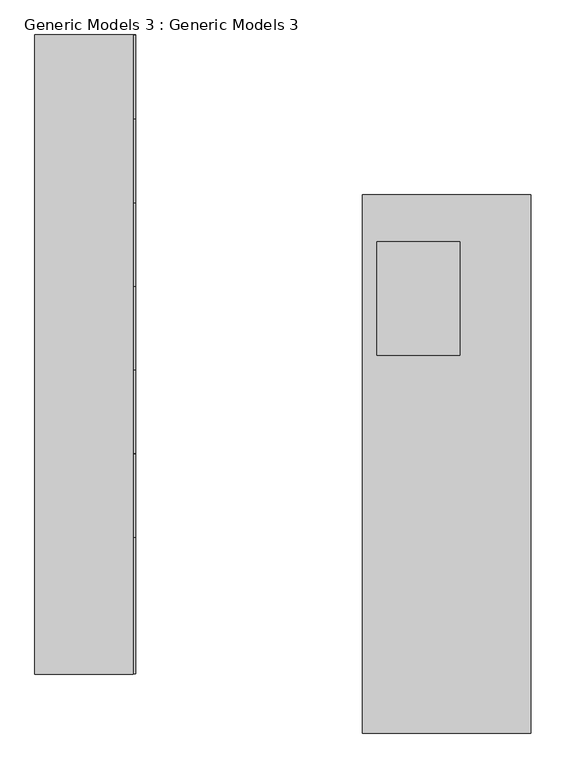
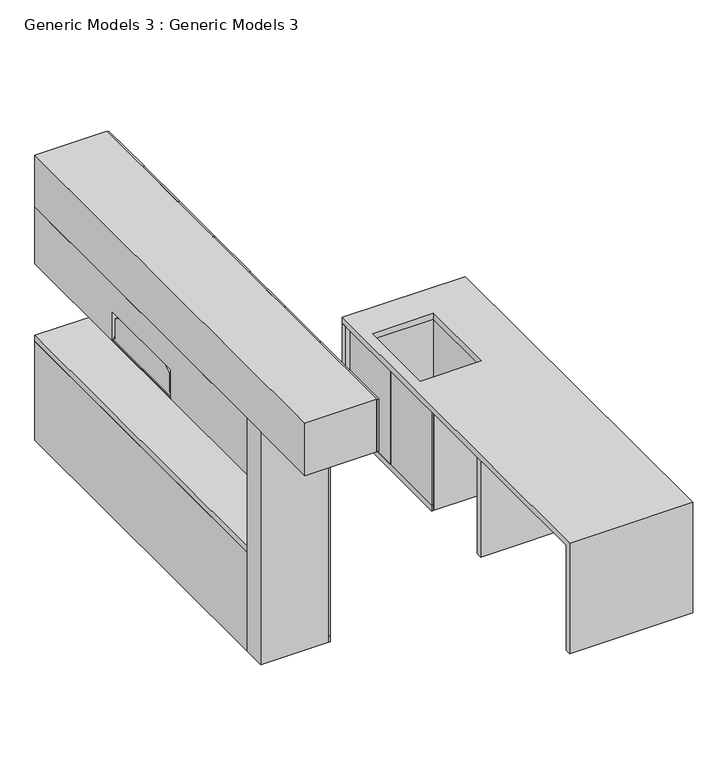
"""IFC4 building model written with IfcOpenShell, lengths in millimetres: proxy geometry, Generic Models 3 : Generic Models 3."""

from ifc_helpers import new_model, si_unit, point, frame, frame_2d, origin, place, context, project, spatial, polyline, circle_curve, trimmed, segment, composite_curve, outline, extrude, faceted_brep, source, transform, mapped, element, save
from ifc_brep_helpers import plane_surface, cylinder_surface, advanced_brep


def generic_models_3_generic_models_3_a327e094(model_context):
    return source(origin(), model_context, "Body", "SolidModel", [
        extrude(outline(polyline([(11257.5134822, 2865.9400516), (11310.4624457, 2865.9400516), (11310.4624457, 2900.9400516), (11269.4624457, 2900.9400516), (11269.4624457, 3013.9400516), (11310.4624457, 3013.9400516), (11310.4624457, 2940.9400665), (11311.4624457, 2940.9400665), (11311.4624457, 2865.9400516), (11329.1706703, 2865.9400516), (11329.1706703, 2864.9400516), (11257.5134822, 2864.9400516), (11257.5134822, 2865.9400516)])), frame((17094.3626556, 0.0, 0.0), z_axis=(1.0, 0.0, 0.0), x_axis=(0.0, 1.0, 0.0)), (0.0, 0.0, 1.0), 37.0000013),
        extrude(outline(polyline([(17223.1337813, 11637.1706699), (17223.1337813, 10807.1706699), (16943.1337755, 10807.1706699), (16943.1337755, 11637.1706699), (17223.1337813, 11637.1706699)]), holes=[polyline([(17150.1337767, 11617.1706681), (16958.1337774, 11617.1706681), (16958.1337774, 10827.1706717), (17150.1337767, 10827.1706717), (17150.1337767, 11617.1706681)]), polyline([(17208.1337793, 11367.6706699), (17170.1337823, 11367.6706699), (17170.1337823, 11076.6706699), (17208.1337793, 11076.6706699), (17208.1337793, 11367.6706699)]), composite_curve([segment(trimmed(circle_curve(frame_2d((17183.1337791, 10884.6706775)), 25.0000002), [point((17183.1337791, 10859.6706774))], [point((17183.1337791, 10909.6706777))], True, "CARTESIAN"), True, "CONTINUOUS"), segment(trimmed(circle_curve(frame_2d((17183.1337791, 10884.6706775)), 25.0000002), [point((17183.1337791, 10909.6706777))], [point((17183.1337791, 10859.6706774))], True, "CARTESIAN"), True, "CONTINUOUS")], self_intersect=False), composite_curve([segment(trimmed(circle_curve(frame_2d((17183.1337791, 11559.6706622)), 25.0000002), [point((17183.1337791, 11534.6706621))], [point((17183.1337791, 11584.6706624))], True, "CARTESIAN"), True, "CONTINUOUS"), segment(trimmed(circle_curve(frame_2d((17183.1337791, 11559.6706622)), 25.0000002), [point((17183.1337791, 11584.6706624))], [point((17183.1337791, 11534.6706621))], True, "CARTESIAN"), True, "CONTINUOUS")], self_intersect=False)]), frame((0.0, 0.0, 2514.9400516), z_axis=(0.0, 0.0, 1.0), x_axis=(1.0, 0.0, 0.0)), (0.0, 0.0, 1.0), 2.0),
        extrude(outline(composite_curve([segment(trimmed(circle_curve(frame_2d((17036.1337629, 11222.1723405)), 76.0), [point((17036.1337629, 11146.1723405))], [point((17036.1337629, 11298.1723405))], False, "CARTESIAN"), True, "CONTINUOUS"), segment(trimmed(circle_curve(frame_2d((17036.1337629, 11222.1723405)), 76.0), [point((17036.1337629, 11298.1723405))], [point((17036.1337629, 11146.1723405))], False, "CARTESIAN"), True, "CONTINUOUS")], self_intersect=False), holes=[composite_curve([segment(trimmed(circle_curve(frame_2d((17036.1337629, 11222.1723405)), 75.0), [point((17036.1337629, 11147.1723405))], [point((17036.1337629, 11297.1723405))], True, "CARTESIAN"), True, "CONTINUOUS"), segment(trimmed(circle_curve(frame_2d((17036.1337629, 11222.1723405)), 75.0), [point((17036.1337629, 11297.1723405))], [point((17036.1337629, 11147.1723405))], True, "CARTESIAN"), True, "CONTINUOUS")], self_intersect=False)]), frame((0.0, 0.0, 2876.9400516), z_axis=(0.0, 0.0, 1.0), x_axis=(1.0, 0.0, 0.0)), (0.0, 0.0, 1.0), 65.0),
        faceted_brep([(16955.6337784, 11606.1706673, 2712.4980289), (16955.6337784, 11606.1706673, 2546.9400515), (16955.6337784, 11618.1706616, 2546.9400515), (16955.6337784, 11618.1706616, 2516.9400516), (16955.6337784, 10826.1706782, 2516.9400516), (16955.6337784, 10826.1706782, 2546.9400515), (16955.6337784, 10838.1706725, 2546.9400515), (16955.6337784, 10838.1706725, 2712.4980289), (16955.6337784, 11072.6706655, 2864.9400516), (16955.6337784, 11371.6706743, 2864.9400516), (17210.6337784, 11606.1706673, 2712.4980289), (17210.6337784, 11371.6706743, 2864.9400516), (17210.6337784, 11072.6706655, 2864.9400516), (17210.6337784, 10838.1706725, 2712.4980289), (17210.6337784, 10838.1706725, 2546.9400515), (17210.6337784, 10826.1706782, 2546.9400515), (17210.6337784, 10826.1706782, 2516.9400516), (17210.6337784, 11618.1706616, 2516.9400516), (17210.6337784, 11618.1706616, 2546.9400515), (17210.6337784, 11606.1706673, 2546.9400515), (17208.1337793, 11367.6706699, 2516.9400516), (17170.1337823, 11367.6706699, 2516.9400516), (17170.1337823, 11076.6706699, 2516.9400516), (17208.1337793, 11076.6706699, 2516.9400516), (17150.1337767, 11617.1706699, 2516.9400516), (16958.1337774, 11617.1706699, 2516.9400516), (16958.1337774, 10827.1706699, 2516.9400516), (17150.1337767, 10827.1706699, 2516.9400516), (17208.1337793, 11367.6706699, 2530.9400516), (17195.1337835, 11367.6706699, 2535.9400503), (17195.1337835, 11076.6706699, 2535.9400503), (17208.1337793, 11076.6706699, 2530.9400516), (17150.1337767, 11617.1706699, 2544.9400509), (16966.1337797, 11617.1706699, 2544.9400509), (16966.1337797, 11617.1706699, 2534.9400527), (16958.1337774, 11617.1706699, 2534.9400527), (16958.1337774, 10827.1706699, 2534.9400527), (16966.1337797, 10827.1706699, 2534.9400527), (16966.1337797, 10827.1706699, 2544.9400509), (17150.1337767, 10827.1706699, 2544.9400509)], [[[0, 1, 2, 3, 4, 5, 6, 7, 8, 9]], [[10, 11, 12, 13, 14, 15, 16, 17, 18, 19]], [[7, 6, 14, 13]], [[9, 8, 12, 11]], [[1, 0, 10, 19]], [[2, 1, 19, 18]], [[3, 2, 18, 17]], [[4, 3, 17, 16], [20, 21, 22, 23], [24, 25, 26, 27]], [[5, 4, 16, 15]], [[6, 5, 15, 14]], [[8, 7, 13, 12]], [[0, 9, 11, 10]], [[28, 29, 21, 20]], [[22, 30, 31, 23]], [[31, 28, 20, 23]], [[21, 29, 30, 22]], [[29, 28, 31, 30]], [[32, 33, 34, 35, 25, 24]], [[36, 37, 38, 39, 27, 26]], [[39, 32, 24, 27]], [[35, 36, 26, 25]], [[35, 34, 37, 36]], [[34, 33, 38, 37]], [[33, 32, 39, 38]]]),
        extrude(outline(composite_curve([segment(trimmed(circle_curve(frame_2d((17183.1337791, 10884.6706685)), 22.0), [point((17183.1337791, 10862.6706685))], [point((17183.1337791, 10906.6706685))], False, "CARTESIAN"), True, "CONTINUOUS"), segment(trimmed(circle_curve(frame_2d((17183.1337791, 10884.6706685)), 22.0), [point((17183.1337791, 10906.6706685))], [point((17183.1337791, 10862.6706685))], False, "CARTESIAN"), True, "CONTINUOUS")], self_intersect=False)), frame((0.0, 0.0, 2514.9400516), z_axis=(0.0, 0.0, 1.0), x_axis=(1.0, 0.0, 0.0)), (0.0, 0.0, 1.0), 3.0),
        extrude(outline(composite_curve([segment(trimmed(circle_curve(frame_2d((17183.1337791, 11559.6706713)), 22.0), [point((17183.1337791, 11537.6706713))], [point((17183.1337791, 11581.6706713))], False, "CARTESIAN"), True, "CONTINUOUS"), segment(trimmed(circle_curve(frame_2d((17183.1337791, 11559.6706713)), 22.0), [point((17183.1337791, 11581.6706713))], [point((17183.1337791, 11537.6706713))], False, "CARTESIAN"), True, "CONTINUOUS")], self_intersect=False)), frame((0.0, 0.0, 2514.9400516), z_axis=(0.0, 0.0, 1.0), x_axis=(1.0, 0.0, 0.0)), (0.0, 0.0, 1.0), 3.0),
        extrude(outline(composite_curve([segment(trimmed(circle_curve(frame_2d((17112.8626551, 11290.5134817)), 12.0000011), [point((17112.8626551, 11278.5134807))], [point((17112.8626551, 11302.5134828))], False, "CARTESIAN"), True, "CONTINUOUS"), segment(trimmed(circle_curve(frame_2d((17112.8626551, 11290.5134817)), 12.0000011), [point((17112.8626551, 11302.5134828))], [point((17112.8626551, 11278.5134807))], False, "CARTESIAN"), True, "CONTINUOUS")], self_intersect=False), holes=[composite_curve([segment(trimmed(circle_curve(frame_2d((17112.8626551, 11290.5134817)), 6.000004), [point((17112.8626551, 11284.5134778))], [point((17112.8626551, 11296.5134857))], True, "CARTESIAN"), True, "CONTINUOUS"), segment(trimmed(circle_curve(frame_2d((17112.8626551, 11290.5134817)), 6.000004), [point((17112.8626551, 11296.5134857))], [point((17112.8626551, 11284.5134778))], True, "CARTESIAN"), True, "CONTINUOUS")], self_intersect=False)]), frame((0.0, 0.0, 3013.9400516), z_axis=(0.0, 0.0, 1.0), x_axis=(1.0, 0.0, 0.0)), (0.0, 0.0, 1.0), 2.0),
        extrude(outline(polyline([(10.0000043, 0.0), (10.0000043, -17.4999992), (0.0, -17.4999992), (0.0, 0.0), (10.0000043, 0.0)])), frame((17186.6621067, 11163.1706693, 2528.2455553), z_axis=(-0.6050832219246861, 0.0, 0.7961622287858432), x_axis=(-0.7961622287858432, 0.0, -0.6050832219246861)), (0.0, 0.0, 1.0), 0.9999968),
        extrude(outline(polyline([(10.0000043, -18.0000005), (10.0000043, -35.5000045), (0.0, -35.5000045), (0.0, -18.0000005), (10.0000043, -18.0000005)])), frame((17186.6621067, 11163.1706693, 2528.2455553), z_axis=(-0.6050832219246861, 0.0, 0.7961622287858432), x_axis=(-0.7961622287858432, 0.0, -0.6050832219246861)), (0.0, 0.0, 1.0), 0.9999968),
        extrude(outline(polyline([(10.0000043, -36.000001), (10.0000043, -53.5000056), (0.0, -53.5000056), (0.0, -36.000001), (10.0000043, -36.000001)])), frame((17186.6621067, 11163.1706693, 2528.2455553), z_axis=(-0.6050832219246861, 0.0, 0.7961622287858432), x_axis=(-0.7961622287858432, 0.0, -0.6050832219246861)), (0.0, 0.0, 1.0), 0.9999968),
        extrude(outline(polyline([(10.0000043, -54.0000003), (10.0000043, -64.0000009), (0.0, -64.0000009), (0.0, -54.0000003), (10.0000043, -54.0000003)])), frame((17186.6621067, 11163.1706693, 2528.2455553), z_axis=(-0.6050832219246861, 0.0, 0.7961622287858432), x_axis=(-0.7961622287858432, 0.0, -0.6050832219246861)), (0.0, 0.0, 1.0), 0.9999968),
        extrude(outline(polyline([(10.0000043, -64.5000004), (10.0000043, -82.0000051), (0.0, -82.0000051), (0.0, -64.5000004), (10.0000043, -64.5000004)])), frame((17186.6621067, 11163.1706693, 2528.2455553), z_axis=(-0.6050832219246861, 0.0, 0.7961622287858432), x_axis=(-0.7961622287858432, 0.0, -0.6050832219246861)), (0.0, 0.0, 1.0), 0.9999968),
        extrude(outline(polyline([(10.0000043, -82.5000015), (10.0000043, -100.0000056), (0.0, -100.0000056), (0.0, -82.5000015), (10.0000043, -82.5000015)])), frame((17186.6621067, 11163.1706693, 2528.2455553), z_axis=(-0.6050832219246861, 0.0, 0.7961622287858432), x_axis=(-0.7961622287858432, 0.0, -0.6050832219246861)), (0.0, 0.0, 1.0), 0.9999968),
        extrude(outline(polyline([(10.0000043, -100.500002), (10.0000043, -118.0000061), (0.0, -118.0000061), (0.0, -100.500002), (10.0000043, -100.500002)])), frame((17186.6621067, 11163.1706693, 2528.2455553), z_axis=(-0.6050832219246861, 0.0, 0.7961622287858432), x_axis=(-0.7961622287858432, 0.0, -0.6050832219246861)), (0.0, 0.0, 1.0), 0.9999968),
        extrude(outline(polyline([(17131.3626568, 11599.1706767), (17131.3626568, 10845.1706631), (16973.9337784, 10845.1706631), (16973.9337784, 11599.1706767), (17131.3626568, 11599.1706767)])), frame((0.0, 0.0, 2514.9400516), z_axis=(0.0, 0.0, 1.0), x_axis=(1.0, 0.0, 0.0)), (0.0, 0.0, 1.0), 3.0),
        extrude(outline(polyline([(10826.1706699, 2599.9400516), (10838.1706725, 2599.9400516), (10838.1706725, 2549.9400516), (10836.1706699, 2549.9400516), (10836.1706699, 2583.9400516), (10823.6706699, 2583.9400516), (10819.1706699, 2567.9400516), (10819.1706699, 2555.9400516), (10817.1706699, 2555.9400516), (10817.1706699, 2567.9400516), (10826.1706699, 2599.9400516)])), frame((16980.1337784, 0.0, 0.0), z_axis=(1.0, 0.0, 0.0), x_axis=(0.0, 1.0, 0.0)), (0.0, 0.0, 1.0), 39.0),
        extrude(outline(polyline([(11618.1706699, 2599.9400516), (11627.1706699, 2567.9400516), (11627.1706699, 2555.9400516), (11625.1706699, 2555.9400516), (11625.1706699, 2567.9400516), (11620.6706699, 2583.9400516), (11608.1706699, 2583.9400516), (11608.1706699, 2549.9400516), (11606.1706673, 2549.9400516), (11606.1706673, 2599.9400516), (11618.1706699, 2599.9400516)])), frame((16980.1337784, 0.0, 0.0), z_axis=(1.0, 0.0, 0.0), x_axis=(0.0, 1.0, 0.0)), (0.0, 0.0, 1.0), 39.0),
        extrude(outline(polyline([(10826.1706699, 2599.9400516), (10838.1706725, 2599.9400516), (10838.1706725, 2549.9400516), (10836.1706699, 2549.9400516), (10836.1706699, 2583.9400516), (10823.6706699, 2583.9400516), (10819.1706699, 2567.9400516), (10819.1706699, 2555.9400516), (10817.1706699, 2555.9400516), (10817.1706699, 2567.9400516), (10826.1706699, 2599.9400516)])), frame((17129.1337784, 0.0, 0.0), z_axis=(1.0, 0.0, 0.0), x_axis=(0.0, 1.0, 0.0)), (0.0, 0.0, 1.0), 39.0),
        extrude(outline(polyline([(11618.1706699, 2599.9400516), (11627.1706699, 2567.9400516), (11627.1706699, 2555.9400516), (11625.1706699, 2555.9400516), (11625.1706699, 2567.9400516), (11620.6706699, 2583.9400516), (11608.1706699, 2583.9400516), (11608.1706699, 2549.9400516), (11606.1706673, 2549.9400516), (11606.1706673, 2599.9400516), (11618.1706699, 2599.9400516)])), frame((17129.1337784, 0.0, 0.0), z_axis=(1.0, 0.0, 0.0), x_axis=(0.0, 1.0, 0.0)), (0.0, 0.0, 1.0), 39.0),
        extrude(outline(composite_curve([segment(trimmed(circle_curve(frame_2d((17036.1341894, 11222.1706699)), 79.500375), [point((16963.6337778, 11189.551658))], [point((16963.6337778, 11254.7896818))], False, "CARTESIAN"), True, "CONTINUOUS"), segment(polyline([(16963.6337778, 11254.7896818), (16963.6337778, 11295.1706727)]), True, "CONTINUOUS"), segment(trimmed(circle_curve(frame_2d((16973.6337778, 11295.1706727)), 10.0), [point((16963.6337778, 11295.1706727))], [point((16973.6337778, 11305.1706727))], False, "CARTESIAN"), True, "CONTINUOUS"), segment(polyline([(16973.6337778, 11305.1706727), (16989.5240806, 11305.1706727), (17011.1337755, 11329.1706703), (17041.1337811, 11329.1706703), (17062.743476, 11305.1706727), (17078.6337782, 11305.1706727)]), True, "CONTINUOUS"), segment(trimmed(circle_curve(frame_2d((17078.6337782, 11295.1706727)), 10.0), [point((17078.6337782, 11305.1706727))], [point((17088.6337782, 11295.1706727))], False, "CARTESIAN"), True, "CONTINUOUS"), segment(polyline([(17088.6337782, 11295.1706727), (17088.6337782, 11281.8699147)]), True, "CONTINUOUS"), segment(trimmed(circle_curve(frame_2d((17036.1334817, 11222.1706699)), 79.5001948), [point((17088.6337782, 11281.8699147))], [point((17088.6337782, 11162.4714251))], False, "CARTESIAN"), True, "CONTINUOUS"), segment(polyline([(17088.6337782, 11162.4714251), (17088.6337782, 11149.1706671)]), True, "CONTINUOUS"), segment(trimmed(circle_curve(frame_2d((17078.6337782, 11149.1706671)), 10.0), [point((17088.6337782, 11149.1706671))], [point((17078.6337782, 11139.1706671))], False, "CARTESIAN"), True, "CONTINUOUS"), segment(polyline([(17078.6337782, 11139.1706671), (17062.743476, 11139.1706671), (17041.1337811, 11115.1706694), (17011.1337755, 11115.1706694), (16989.5240806, 11139.1706671), (16973.6337778, 11139.1706671)]), True, "CONTINUOUS"), segment(trimmed(circle_curve(frame_2d((16973.6337778, 11149.1706671)), 10.0), [point((16973.6337778, 11139.1706671))], [point((16963.6337778, 11149.1706671))], False, "CARTESIAN"), True, "CONTINUOUS"), segment(polyline([(16963.6337778, 11149.1706671), (16963.6337778, 11189.551658)]), True, "CONTINUOUS")], self_intersect=False), holes=[composite_curve([segment(trimmed(circle_curve(frame_2d((17036.1341894, 11222.1706699)), 76.0), [point((17036.1341894, 11146.1706699))], [point((17036.1341894, 11298.1706699))], True, "CARTESIAN"), True, "CONTINUOUS"), segment(trimmed(circle_curve(frame_2d((17036.1341894, 11222.1706699)), 76.0), [point((17036.1341894, 11298.1706699))], [point((17036.1341894, 11146.1706699))], True, "CARTESIAN"), True, "CONTINUOUS")], self_intersect=False)]), frame((0.0, 0.0, 2864.9400516), z_axis=(0.0, 0.0, 1.0), x_axis=(1.0, 0.0, 0.0)), (0.0, 0.0, 1.0), 12.0),
        extrude(outline(polyline([(17493.1337784, 9727.4206739), (17493.1337784, 9537.5640559), (16943.1337784, 9537.5640559), (16943.1337784, 9727.4206739), (17493.1337784, 9727.4206739)])), frame((0.0, 0.0, 1000.0), z_axis=(0.0, 0.0, 1.0), x_axis=(1.0, 0.0, 0.0)), (0.0, 0.0, 1.0), 2000.0),
        extrude(outline(polyline([(17309.1337784, 10224.6206739), (17309.1337784, 9731.4206739), (17293.1337784, 9731.4206739), (17293.1337784, 10224.6206739), (17309.1337784, 10224.6206739)])), frame((0.0, 0.0, 2514.9400516), z_axis=(0.0, 0.0, 1.0), x_axis=(1.0, 0.0, 0.0)), (0.0, 0.0, 1.0), 481.0599484),
        extrude(outline(polyline([(17309.1337784, 10721.9706699), (17309.1337784, 10228.6206739), (17293.1337784, 10228.6206739), (17293.1337784, 10721.9706699), (17309.1337784, 10721.9706699)])), frame((0.0, 0.0, 2514.9400516), z_axis=(0.0, 0.0, 1.0), x_axis=(1.0, 0.0, 0.0)), (0.0, 0.0, 1.0), 481.0599484),
        extrude(outline(polyline([(17309.1337784, 11219.1706699), (17309.1337784, 10725.9706699), (17293.1337784, 10725.9706699), (17293.1337784, 11219.1706699), (17309.1337784, 11219.1706699)])), frame((0.0, 0.0, 2514.9400516), z_axis=(0.0, 0.0, 1.0), x_axis=(1.0, 0.0, 0.0)), (0.0, 0.0, 1.0), 481.0599484),
        extrude(outline(polyline([(17309.1337784, 11716.3706699), (17309.1337784, 11223.1706699), (17293.1337784, 11223.1706699), (17293.1337784, 11716.3706699), (17309.1337784, 11716.3706699)])), frame((0.0, 0.0, 2514.9400516), z_axis=(0.0, 0.0, 1.0), x_axis=(1.0, 0.0, 0.0)), (0.0, 0.0, 1.0), 481.0599484),
        extrude(outline(polyline([(17309.1337784, 12215.7206658), (17309.1337784, 11720.3706699), (17293.1337784, 11720.3706699), (17293.1337784, 12215.7206658), (17309.1337784, 12215.7206658)])), frame((0.0, 0.0, 2514.9400516), z_axis=(0.0, 0.0, 1.0), x_axis=(1.0, 0.0, 0.0)), (0.0, 0.0, 1.0), 481.0599484),
        extrude(outline(polyline([(17309.1337784, 12714.9206658), (17309.1337784, 12219.7206658), (17293.1337784, 12219.7206658), (17293.1337784, 12714.9206658), (17309.1337784, 12714.9206658)])), frame((0.0, 0.0, 2514.9400516), z_axis=(0.0, 0.0, 1.0), x_axis=(1.0, 0.0, 0.0)), (0.0, 0.0, 1.0), 481.0599484),
        extrude(outline(polyline([(18927.1337784, 11141.9206658), (18927.1337784, 11714.9206658), (18943.1337784, 11714.9206658), (18943.1337784, 11141.9206658), (18927.1337784, 11141.9206658)])), frame((0.0, 0.0, 1052.0), z_axis=(0.0, 0.0, 1.0), x_axis=(1.0, 0.0, 0.0)), (0.0, 0.0, 1.0), 828.0),
        extrude(outline(polyline([(18927.1337784, 10566.9206658), (18927.1337784, 11139.9206658), (18943.1337784, 11139.9206658), (18943.1337784, 10566.9206658), (18927.1337784, 10566.9206658)])), frame((0.0, 0.0, 1052.0), z_axis=(0.0, 0.0, 1.0), x_axis=(1.0, 0.0, 0.0)), (0.0, 0.0, 1.0), 828.0),
        extrude(outline(polyline([(18927.1337784, 10566.9206658), (18927.1337784, 11716.9206658), (18943.1337784, 11716.9206658), (18943.1337784, 10566.9206658), (18927.1337784, 10566.9206658)])), frame((0.0, 0.0, 1000.0), z_axis=(0.0, 0.0, 1.0), x_axis=(1.0, 0.0, 0.0)), (0.0, 0.0, 1.0), 50.0),
        extrude(outline(polyline([(19843.1337784, 9906.9206658), (19843.1337784, 11716.9206658), (19858.1337784, 11716.9206658), (19858.1337784, 11706.9206658), (19873.1337784, 11706.9206658), (19873.1337784, 11676.9206658), (19858.1337784, 11676.9206658), (19858.1337784, 11661.9206658), (19873.1337784, 11661.9206658), (19873.1337784, 11631.9206658), (19858.1337784, 11631.9206658), (19858.1337784, 11616.9206658), (19873.1337784, 11616.9206658), (19873.1337784, 11586.9206658), (19858.1337784, 11586.9206658), (19858.1337784, 11571.9206658), (19873.1337784, 11571.9206658), (19873.1337784, 11541.9206658), (19858.1337784, 11541.9206658), (19858.1337784, 11526.9206658), (19873.1337784, 11526.9206658), (19873.1337784, 11496.9206658), (19858.1337784, 11496.9206658), (19858.1337784, 11481.9206658), (19873.1337784, 11481.9206658), (19873.1337784, 11451.9206658), (19858.1337784, 11451.9206658), (19858.1337784, 11436.9206658), (19873.1337784, 11436.9206658), (19873.1337784, 11406.9206658), (19858.1337784, 11406.9206658), (19858.1337784, 11391.9206658), (19873.1337784, 11391.9206658), (19873.1337784, 11361.9206658), (19858.1337784, 11361.9206658), (19858.1337784, 11346.9206658), (19873.1337784, 11346.9206658), (19873.1337784, 11316.9206658), (19858.1337784, 11316.9206658), (19858.1337784, 11301.9206658), (19873.1337784, 11301.9206658), (19873.1337784, 11271.9206658), (19858.1337784, 11271.9206658), (19858.1337784, 11256.9206658), (19873.1337784, 11256.9206658), (19873.1337784, 11226.9206658), (19858.1337784, 11226.9206658), (19858.1337784, 11211.9206658), (19873.1337784, 11211.9206658), (19873.1337784, 11181.9206658), (19858.1337784, 11181.9206658), (19858.1337784, 11166.9206658), (19873.1337784, 11166.9206658), (19873.1337784, 11136.9206658), (19858.1337784, 11136.9206658), (19858.1337784, 11121.9206658), (19873.1337784, 11121.9206658), (19873.1337784, 11091.9206658), (19858.1337784, 11091.9206658), (19858.1337784, 11076.9206658), (19873.1337784, 11076.9206658), (19873.1337784, 11046.9206658), (19858.1337784, 11046.9206658), (19858.1337784, 11031.9206658), (19873.1337784, 11031.9206658), (19873.1337784, 11001.9206658), (19858.1337784, 11001.9206658), (19858.1337784, 10986.9206658), (19873.1337784, 10986.9206658), (19873.1337784, 10956.9206658), (19858.1337784, 10956.9206658), (19858.1337784, 10941.9206658), (19873.1337784, 10941.9206658), (19873.1337784, 10911.9206658), (19858.1337784, 10911.9206658), (19858.1337784, 10896.9206658), (19873.1337784, 10896.9206658), (19873.1337784, 10866.9206658), (19858.1337784, 10866.9206658), (19858.1337784, 10851.9206658), (19873.1337784, 10851.9206658), (19873.1337784, 10821.9206658), (19858.1337784, 10821.9206658), (19858.1337784, 10806.9206658), (19873.1337784, 10806.9206658), (19873.1337784, 10776.9206658), (19858.1337784, 10776.9206658), (19858.1337784, 10761.9206658), (19873.1337784, 10761.9206658), (19873.1337784, 10731.9206658), (19858.1337784, 10731.9206658), (19858.1337784, 10716.9206658), (19873.1337784, 10716.9206658), (19873.1337784, 10686.9206658), (19858.1337784, 10686.9206658), (19858.1337784, 10671.9206658), (19873.1337784, 10671.9206658), (19873.1337784, 10641.9206658), (19858.1337784, 10641.9206658), (19858.1337784, 10626.9206658), (19873.1337784, 10626.9206658), (19873.1337784, 10596.9206658), (19858.1337784, 10596.9206658), (19858.1337784, 10581.9206658), (19873.1337784, 10581.9206658), (19873.1337784, 10551.9206658), (19858.1337784, 10551.9206658), (19858.1337784, 10536.9206658), (19873.1337784, 10536.9206658), (19873.1337784, 10506.9206658), (19858.1337784, 10506.9206658), (19858.1337784, 10491.9206658), (19873.1337784, 10491.9206658), (19873.1337784, 10461.9206658), (19858.1337784, 10461.9206658), (19858.1337784, 10446.9206658), (19873.1337784, 10446.9206658), (19873.1337784, 10416.9206658), (19858.1337784, 10416.9206658), (19858.1337784, 10401.9206658), (19873.1337784, 10401.9206658), (19873.1337784, 10371.9206658), (19858.1337784, 10371.9206658), (19858.1337784, 10356.9206658), (19873.1337784, 10356.9206658), (19873.1337784, 10326.9206658), (19858.1337784, 10326.9206658), (19858.1337784, 10311.9206658), (19873.1337784, 10311.9206658), (19873.1337784, 10281.9206658), (19858.1337784, 10281.9206658), (19858.1337784, 10266.9206658), (19873.1337784, 10266.9206658), (19873.1337784, 10236.9206658), (19858.1337784, 10236.9206658), (19858.1337784, 10221.9206658), (19873.1337784, 10221.9206658), (19873.1337784, 10191.9206658), (19858.1337784, 10191.9206658), (19858.1337784, 10176.9206658), (19873.1337784, 10176.9206658), (19873.1337784, 10146.9206658), (19858.1337784, 10146.9206658), (19858.1337784, 10131.9206658), (19873.1337784, 10131.9206658), (19873.1337784, 10101.9206658), (19858.1337784, 10101.9206658), (19858.1337784, 10086.9206658), (19873.1337784, 10086.9206658), (19873.1337784, 10056.9206658), (19858.1337784, 10056.9206658), (19858.1337784, 10041.9206658), (19873.1337784, 10041.9206658), (19873.1337784, 10011.9206658), (19858.1337784, 10011.9206658), (19858.1337784, 9996.9206658), (19873.1337784, 9996.9206658), (19873.1337784, 9966.9206658), (19858.1337784, 9966.9206658), (19858.1337784, 9951.9206658), (19873.1337784, 9951.9206658), (19873.1337784, 9921.9206658), (19858.1337784, 9921.9206658), (19858.1337784, 9906.9206658), (19843.1337784, 9906.9206658)])), frame((0.0, 0.0, 1000.0), z_axis=(0.0, 0.0, 1.0), x_axis=(1.0, 0.0, 0.0)), (0.0, 0.0, 1.0), 900.0),
        extrude(outline(polyline([(18893.1337784, 11766.9206658), (19893.1337784, 11766.9206658), (19893.1337784, 11716.9206658), (18893.1337784, 11716.9206658), (18893.1337784, 11766.9206658)])), frame((0.0, 0.0, 1000.0), z_axis=(0.0, 0.0, 1.0), x_axis=(1.0, 0.0, 0.0)), (0.0, 0.0, 1.0), 900.0),
        faceted_brep([(18893.1337784, 8616.9206658, 1000.0), (19893.1337784, 8616.9206658, 1000.0), (19893.1337784, 8566.9206658, 1000.0), (18893.1337784, 8566.9206658, 1000.0), (18893.1337784, 8616.9206658, 1900.0), (19893.1337784, 8616.9206658, 1900.0), (19893.1337784, 11766.9206658, 1900.0), (19893.1337784, 11766.9206658, 1950.0), (19893.1337784, 8566.9206658, 1950.0), (18893.1337784, 8566.9206658, 1950.0), (18893.1337784, 11766.9206658, 1950.0), (18893.1337784, 11766.9206658, 1900.0), (19472.60128, 10812.8204468, 1950.0), (18977.60128, 10812.8204468, 1950.0), (18977.60128, 11487.8204468, 1950.0), (19472.60128, 11487.8204468, 1950.0), (18977.60128, 10812.8204468, 1900.0), (19472.60128, 10812.8204468, 1900.0), (19472.60128, 11487.8204468, 1900.0), (18977.60128, 11487.8204468, 1900.0)], [[[0, 1, 2, 3]], [[1, 0, 4, 5]], [[2, 1, 5, 6, 7, 8]], [[3, 2, 8, 9]], [[0, 3, 9, 10, 11, 4]], [[8, 7, 10, 9], [12, 13, 14, 15]], [[11, 6, 5, 4], [16, 17, 18, 19]], [[10, 7, 6, 11]], [[12, 17, 16, 13]], [[13, 16, 19, 14]], [[14, 19, 18, 15]], [[17, 12, 15, 18]]]),
        faceted_brep([(18943.1337784, 9906.9206658, 1900.0), (19843.1337784, 9906.9206658, 1900.0), (19843.1337784, 11716.9206658, 1900.0), (18968.1337784, 11716.9206658, 1900.0), (18968.1337784, 10566.9206658, 1900.0), (18943.1337784, 10566.9206658, 1900.0), (19472.60128, 10812.8204468, 1900.0), (18977.60128, 10812.8204468, 1900.0), (18977.60128, 11487.8204468, 1900.0), (19472.60128, 11487.8204468, 1900.0), (18943.1337784, 11716.9206658, 1000.0), (19843.1337784, 11716.9206658, 1000.0), (19843.1337784, 9906.9206658, 1000.0), (18943.1337784, 9906.9206658, 1000.0), (18943.1337784, 9956.9206658, 1000.0), (19538.2792302, 9956.9206658, 1000.0), (19538.2792302, 10566.9206658, 1000.0), (18943.1337784, 10566.9206658, 1000.0), (18943.1337784, 11716.9206658, 1850.0), (18968.1337784, 11716.9206658, 1850.0), (18943.1337784, 10566.9206658, 1850.0), (18943.1337784, 9956.9206658, 1850.0), (19538.2792302, 10566.9206658, 1850.0), (19538.2792302, 9956.9206658, 1850.0), (18968.1337784, 10566.9206658, 1850.0), (18968.1337784, 10566.9206658, 1850.0), (19472.60128, 10812.8204468, 1230.7609721), (19472.60128, 11487.8204468, 1230.7609721), (18977.60128, 11487.8204468, 1230.7609721), (18977.60128, 10812.8204468, 1230.7609721)], [[[0, 1, 2, 3, 4, 5], [6, 7, 8, 9]], [[10, 11, 12, 13, 14, 15, 16, 17]], [[1, 0, 13, 12]], [[2, 1, 12, 11]], [[11, 10, 18, 19, 3, 2]], [[13, 0, 5, 20, 21, 14]], [[10, 17, 20, 18]], [[22, 16, 15, 23]], [[22, 23, 21, 20, 24]], [[23, 15, 14, 21]], [[16, 22, 24, 20, 17]], [[4, 25, 20, 5]], [[25, 4, 3, 19]], [[20, 25, 19, 18]], [[26, 27, 28, 29]], [[26, 29, 7, 6]], [[29, 28, 8, 7]], [[28, 27, 9, 8]], [[27, 26, 6, 9]]]),
        extrude(outline(polyline([(17543.1337784, 9727.4206739), (17543.1337784, 8918.9206658), (17527.1337784, 8918.9206658), (17527.1337784, 9727.4206739), (17543.1337784, 9727.4206739)])), frame((0.0, 0.0, 3000.0), z_axis=(0.0, 0.0, 1.0), x_axis=(1.0, 0.0, 0.0)), (0.0, 0.0, 1.0), 448.0),
        extrude(outline(polyline([(17543.1337784, 12714.9206658), (17543.1337784, 12219.7206658), (17527.1337784, 12219.7206658), (17527.1337784, 12714.9206658), (17543.1337784, 12714.9206658)])), frame((0.0, 0.0, 3000.0), z_axis=(0.0, 0.0, 1.0), x_axis=(1.0, 0.0, 0.0)), (0.0, 0.0, 1.0), 448.0),
        extrude(outline(polyline([(17543.1337784, 10224.6206739), (17543.1337784, 9731.4206739), (17527.1337784, 9731.4206739), (17527.1337784, 10224.6206739), (17543.1337784, 10224.6206739)])), frame((0.0, 0.0, 3000.0), z_axis=(0.0, 0.0, 1.0), x_axis=(1.0, 0.0, 0.0)), (0.0, 0.0, 1.0), 448.0),
        extrude(outline(polyline([(17543.1337784, 10721.9706699), (17543.1337784, 10228.6206739), (17527.1337784, 10228.6206739), (17527.1337784, 10721.9706699), (17543.1337784, 10721.9706699)])), frame((0.0, 0.0, 3000.0), z_axis=(0.0, 0.0, 1.0), x_axis=(1.0, 0.0, 0.0)), (0.0, 0.0, 1.0), 448.0),
        extrude(outline(polyline([(17543.1337784, 11219.1706699), (17543.1337784, 10725.9706699), (17527.1337784, 10725.9706699), (17527.1337784, 11219.1706699), (17543.1337784, 11219.1706699)])), frame((0.0, 0.0, 3000.0), z_axis=(0.0, 0.0, 1.0), x_axis=(1.0, 0.0, 0.0)), (0.0, 0.0, 1.0), 448.0),
        extrude(outline(polyline([(17543.1337784, 11716.3706699), (17543.1337784, 11223.1706699), (17527.1337784, 11223.1706699), (17527.1337784, 11716.3706699), (17543.1337784, 11716.3706699)])), frame((0.0, 0.0, 3000.0), z_axis=(0.0, 0.0, 1.0), x_axis=(1.0, 0.0, 0.0)), (0.0, 0.0, 1.0), 448.0),
        extrude(outline(polyline([(17543.1337784, 12215.7206658), (17543.1337784, 11720.3706699), (17527.1337784, 11720.3706699), (17527.1337784, 12215.7206658), (17543.1337784, 12215.7206658)])), frame((0.0, 0.0, 3000.0), z_axis=(0.0, 0.0, 1.0), x_axis=(1.0, 0.0, 0.0)), (0.0, 0.0, 1.0), 448.0),
        faceted_brep([(17293.1337784, 9727.4206739, 3000.0), (17293.1337784, 9727.4206739, 2514.9400516), (17293.1337784, 12716.9206658, 2514.9400516), (17293.1337784, 12716.9206658, 3000.0), (16943.1337784, 9727.4206739, 3000.0), (16943.1337784, 12716.9206658, 3000.0), (16943.1337784, 12716.9206658, 2514.9400516), (16943.1337784, 11637.1706699, 2514.9400516), (16943.1337784, 11637.1706699, 2764.9400516), (16943.1337784, 10807.1706699, 2764.9400516), (16943.1337784, 10807.1706699, 2514.9400516), (16943.1337784, 9727.4206739, 2514.9400516), (17223.1337813, 10807.1706699, 2514.9400516), (17223.1337813, 11637.1706699, 2514.9400516), (17223.1337813, 11637.1706699, 2764.9400516), (17223.1337813, 10807.1706699, 2764.9400516)], [[[0, 1, 2, 3]], [[4, 5, 6, 7, 8, 9, 10, 11]], [[1, 0, 4, 11]], [[2, 1, 11, 10, 12, 13, 7, 6]], [[3, 2, 6, 5]], [[0, 3, 5, 4]], [[14, 15, 9, 8]], [[14, 8, 7, 13]], [[9, 15, 12, 10]], [[15, 14, 13, 12]]]),
        extrude(outline(polyline([(17527.1337784, 12716.9206658), (17527.1337784, 8916.9206658), (16943.1337784, 8916.9206658), (16943.1337784, 12716.9206658), (17527.1337784, 12716.9206658)])), frame((0.0, 0.0, 3000.0), z_axis=(0.0, 0.0, 1.0), x_axis=(1.0, 0.0, 0.0)), (0.0, 0.0, 1.0), 450.0),
        extrude(outline(polyline([(17509.1337784, 12716.9206658), (17509.1337784, 9537.5640559), (17493.1337784, 9537.5640559), (17493.1337784, 12716.9206658), (17509.1337784, 12716.9206658)])), frame((0.0, 0.0, 1000.0), z_axis=(0.0, 0.0, 1.0), x_axis=(1.0, 0.0, 0.0)), (0.0, 0.0, 1.0), 50.0),
        extrude(outline(polyline([(17509.1337784, 11596.1706699), (17509.1337784, 10848.1706699), (17493.1337784, 10848.1706699), (17493.1337784, 11596.1706699), (17509.1337784, 11596.1706699)])), frame((0.0, 0.0, 1052.0), z_axis=(0.0, 0.0, 1.0), x_axis=(1.0, 0.0, 0.0)), (0.0, 0.0, 1.0), 246.0),
        extrude(outline(polyline([(17509.1337784, 12155.0456679), (17509.1337784, 11600.1706699), (17493.1337784, 11600.1706699), (17493.1337784, 12155.0456679), (17509.1337784, 12155.0456679)])), frame((0.0, 0.0, 1052.0), z_axis=(0.0, 0.0, 1.0), x_axis=(1.0, 0.0, 0.0)), (0.0, 0.0, 1.0), 778.0),
        extrude(outline(polyline([(17509.1337784, 12714.9206658), (17509.1337784, 12159.0456679), (17493.1337784, 12159.0456679), (17493.1337784, 12714.9206658), (17509.1337784, 12714.9206658)])), frame((0.0, 0.0, 1052.0), z_axis=(0.0, 0.0, 1.0), x_axis=(1.0, 0.0, 0.0)), (0.0, 0.0, 1.0), 778.0),
        extrude(outline(polyline([(17509.1337784, 10285.2956719), (17509.1337784, 9731.4206739), (17493.1337784, 9731.4206739), (17493.1337784, 10285.2956719), (17509.1337784, 10285.2956719)])), frame((0.0, 0.0, 1052.0), z_axis=(0.0, 0.0, 1.0), x_axis=(1.0, 0.0, 0.0)), (0.0, 0.0, 1.0), 778.0),
        extrude(outline(polyline([(17509.1337784, 10844.1706699), (17509.1337784, 10289.2956719), (17493.1337784, 10289.2956719), (17493.1337784, 10844.1706699), (17509.1337784, 10844.1706699)])), frame((0.0, 0.0, 1052.0), z_axis=(0.0, 0.0, 1.0), x_axis=(1.0, 0.0, 0.0)), (0.0, 0.0, 1.0), 778.0),
        extrude(outline(polyline([(17509.1337784, 11596.1706699), (17509.1337784, 10848.1706699), (17493.1337784, 10848.1706699), (17493.1337784, 11596.1706699), (17509.1337784, 11596.1706699)])), frame((0.0, 0.0, 1584.0), z_axis=(0.0, 0.0, 1.0), x_axis=(1.0, 0.0, 0.0)), (0.0, 0.0, 1.0), 246.0),
        extrude(outline(polyline([(17509.1337784, 11596.1706699), (17509.1337784, 10848.1706699), (17493.1337784, 10848.1706699), (17493.1337784, 11596.1706699), (17509.1337784, 11596.1706699)])), frame((0.0, 0.0, 1318.0), z_axis=(0.0, 0.0, 1.0), x_axis=(1.0, 0.0, 0.0)), (0.0, 0.0, 1.0), 246.0),
        extrude(outline(polyline([(17509.1337784, 9727.4206739), (17509.1337784, 9537.5640559), (17493.1337784, 9537.5640559), (17493.1337784, 9727.4206739), (17509.1337784, 9727.4206739)])), frame((0.0, 0.0, 1052.0), z_axis=(0.0, 0.0, 1.0), x_axis=(1.0, 0.0, 0.0)), (0.0, 0.0, 1.0), 1944.0),
        advanced_brep(
        [(17538.1337784, 9727.4206739, 1850.0), (17543.1337784, 9727.4206739, 1855.0), (17543.1337784, 9727.4206739, 1895.0), (17538.1337784, 9727.4206739, 1900.0), (16943.1337784, 9727.4206739, 1900.0), (16943.1337784, 9727.4206739, 1850.0), (17468.1337784, 9727.4206739, 1850.0), (17493.1337784, 9727.4206739, 1850.0), (16943.1337784, 12716.9206658, 1850.0), (16943.1337784, 12716.9206658, 1900.0), (17538.1337784, 12716.9206658, 1900.0), (17543.1337784, 12716.9206658, 1895.0), (17543.1337784, 12716.9206658, 1855.0), (17538.1337784, 12716.9206658, 1850.0), (17493.1337784, 12716.9206658, 1850.0), (17468.1337784, 12716.9206658, 1850.0)],
        [
            (0, 1, circle_curve(frame((17538.1337784, 9727.4206739, 1855.0), z_axis=(0.0, -1.0, 0.0), x_axis=(-1.0, 0.0, 0.0)), 5.0)),
            (1, 2),
            (2, 3, circle_curve(frame((17538.1337784, 9727.4206739, 1895.0), z_axis=(0.0, -1.0, 0.0), x_axis=(-1.0, 0.0, 0.0)), 5.0)),
            (3, 4),
            (4, 5),
            (5, 6),
            (6, 7),
            (7, 0),
            (8, 9),
            (9, 10),
            (10, 11, circle_curve(frame((17538.1337784, 12716.9206658, 1895.0), z_axis=(0.0, 1.0, 0.0), x_axis=(-1.0, 0.0, 0.0)), 5.0)),
            (11, 12),
            (12, 13, circle_curve(frame((17538.1337784, 12716.9206658, 1855.0), z_axis=(0.0, 1.0, 0.0), x_axis=(-1.0, 0.0, 0.0)), 5.0)),
            (13, 14),
            (14, 15),
            (15, 8),
            (0, 13),
            (12, 1),
            (11, 2),
            (10, 3),
            (9, 4),
            (8, 5),
        ],
        [
            plane_surface(frame((17533.1337784, 9727.4206739, 1855.0), z_axis=(0.0, -1.0, 0.0), x_axis=(0.0, 0.0, -1.0))),
            plane_surface(frame((17533.1337784, 12716.9206658, 1855.0), z_axis=(0.0, 1.0, 0.0), x_axis=(0.0, 0.0, 1.0))),
            cylinder_surface(frame((17538.1337784, 12716.9206658, 1855.0), z_axis=(0.0, -1.0, 0.0), x_axis=(-1.0, 0.0, 0.0)), 5.0),
            plane_surface(frame((17543.1337784, 9727.4206739, 1855.0), z_axis=(1.0, 0.0, 0.0), x_axis=(0.0, 1.0, 0.0))),
            cylinder_surface(frame((17538.1337784, 12716.9206658, 1895.0), z_axis=(0.0, -1.0, 0.0), x_axis=(-1.0, 0.0, 0.0)), 5.0),
            plane_surface(frame((17538.1337784, 9727.4206739, 1900.0), z_axis=(0.0, 0.0, 1.0), x_axis=(0.0, 1.0, 0.0))),
            plane_surface(frame((16943.1337784, 9727.4206739, 1900.0), z_axis=(-1.0, 0.0, 0.0), x_axis=(0.0, 1.0, 0.0))),
            plane_surface(frame((16943.1337784, 9727.4206739, 1850.0), z_axis=(0.0, 0.0, -1.0), x_axis=(0.0, 1.0, 0.0))),
        ],
        [
            (0, [[1, 2, 3, 4, 5, 6, 7, 8]]),
            (1, [[9, 10, 11, 12, 13, 14, 15, 16]]),
            (2, [[-1, 17, -13, 18]]),
            (3, [[-2, -18, -12, 19]]),
            (4, [[-3, -19, -11, 20]]),
            (5, [[-4, -20, -10, 21]]),
            (6, [[-5, -21, -9, 22]]),
            (7, [[-17, -8, -7, -6, -22, -16, -15, -14]]),
        ],
    ),
        faceted_brep([(16943.1337784, 12716.9206658, 1850.0), (16943.1337784, 9727.4206739, 1850.0), (17468.1337784, 9727.4206739, 1850.0), (17468.1337784, 12716.9206658, 1850.0), (17493.1337784, 12716.9206658, 1000.0), (17493.1337784, 9727.4206739, 1000.0), (16943.1337784, 9727.4206739, 1000.0), (16943.1337784, 12716.9206658, 1000.0), (17468.1337784, 12716.9206658, 1800.0), (17493.1337784, 12716.9206658, 1800.0), (17493.1337784, 9727.4206739, 1800.0), (17468.1337784, 9727.4206739, 1800.0), (17493.1337784, 11597.1706699, 1584.0), (17493.1337784, 11597.1706699, 1534.0), (17493.1337784, 10847.1706699, 1534.0), (17493.1337784, 10847.1706699, 1584.0), (17493.1337784, 11597.1706699, 1318.0), (17493.1337784, 11597.1706699, 1268.0), (17493.1337784, 10847.1706699, 1268.0), (17493.1337784, 10847.1706699, 1318.0), (17468.1337784, 11597.1706699, 1584.0), (17468.1337784, 11597.1706699, 1534.0), (17468.1337784, 10847.1706699, 1584.0), (17468.1337784, 10847.1706699, 1534.0), (17468.1337784, 11597.1706699, 1318.0), (17468.1337784, 11597.1706699, 1268.0), (17468.1337784, 10847.1706699, 1318.0), (17468.1337784, 10847.1706699, 1268.0)], [[[0, 1, 2, 3]], [[4, 5, 6, 7]], [[4, 7, 0, 3, 8, 9]], [[1, 0, 7, 6]], [[6, 5, 10, 11, 2, 1]], [[5, 4, 9, 10], [12, 13, 14, 15], [16, 17, 18, 19]], [[8, 11, 10, 9]], [[11, 8, 3, 2]], [[20, 21, 13, 12]], [[22, 15, 14, 23]], [[20, 12, 15, 22]], [[13, 21, 23, 14]], [[21, 20, 22, 23]], [[24, 25, 17, 16]], [[26, 19, 18, 27]], [[24, 16, 19, 26]], [[17, 25, 27, 18]], [[25, 24, 26, 27]]]),
    ])


if __name__ == "__main__":
    model = new_model("IFC4")
    model_context = context("Model", 3, world=origin())
    ifc_project = project(units=[si_unit("LENGTHUNIT", "METRE", prefix="MILLI")], contexts=[model_context])
    site = spatial("IfcSite", under=ifc_project)
    building = spatial("IfcBuilding", under=site)
    placement = place(None, origin())
    generic_models_3_generic_models_3_shape = generic_models_3_generic_models_3_a327e094(model_context)
    element("IfcBuildingElementProxy", 1, Name="Generic Models 3 : Generic Models 3", ObjectType="Generic Models 3 : Generic Models 3", at=placement, inside=building, context=model_context, shape_type="MappedRepresentation", body=[
        mapped(generic_models_3_generic_models_3_shape, transform((0.0, 0.0, 0.0), x_axis=(1.0, 0.0, 0.0), y_axis=(0.0, 1.0, 0.0), z_axis=(0.0, 0.0, 1.0))),
    ])
    save(model, "model.ifc")
